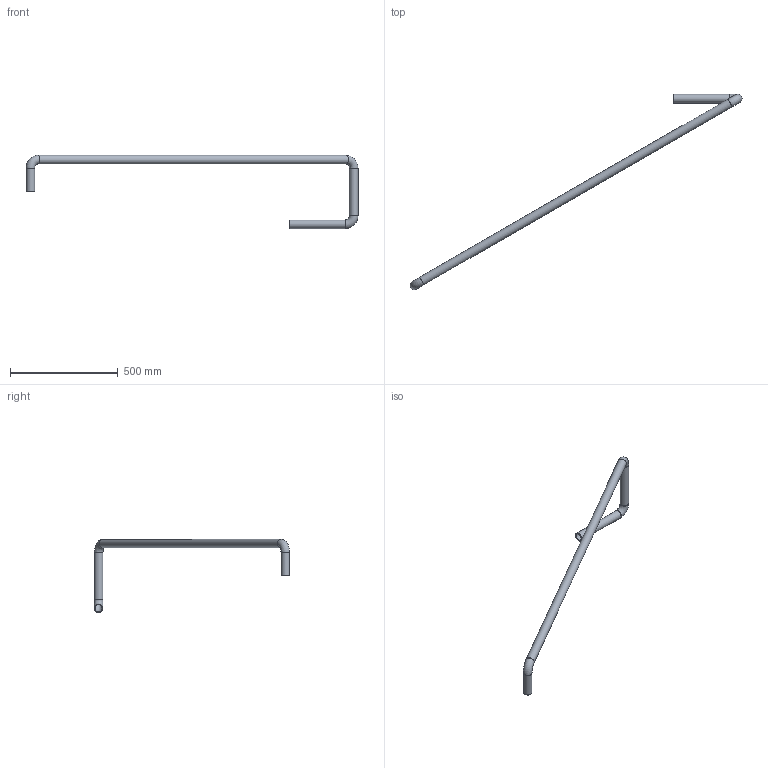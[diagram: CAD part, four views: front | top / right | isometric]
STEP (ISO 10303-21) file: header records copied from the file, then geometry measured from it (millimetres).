
FILE_DESCRIPTION(/* description */ (''),/* implementation_level */ '2;1');
FILE_NAME(/* name */ 'C:\Users\Brecka\Desktop\Madlo-final.stp',/* time_stamp */ '2014-05-27T14:42:42+02:00',/* author */ ('brecka'),/* organization */ (''),/* preprocessor_version */ 'ST-DEVELOPER v15.6',/* originating_system */ 'Autodesk Inventor 2015',/* authorisation */ '');
FILE_SCHEMA (('AUTOMOTIVE_DESIGN { 1 0 10303 214 3 1 1 }'));
Length unit declared in the file: millimetre
Products named in the file (1): Madlo-final
Bounding box: 1540 x 906.02 x 340 mm (x, y, z)
Volume: 975471.7 mm3; surface area: 558215.1 mm2
Topology: 1 solids, 1 shells, 16 faces, 30 edges, 16 vertices
Faces by surface type: cylinder 8, torus 6, plane 2
Full cylindrical faces by diameter (mm): 33 x4, 40 x4
Entity records: 352 total; most frequent: DIRECTION 66, CARTESIAN_POINT 49, AXIS2_PLACEMENT_3D 33, EDGE_LOOP 32, ORIENTED_EDGE 32, FACE_BOUND 16, FACE_OUTER_BOUND 16, CIRCLE 16
